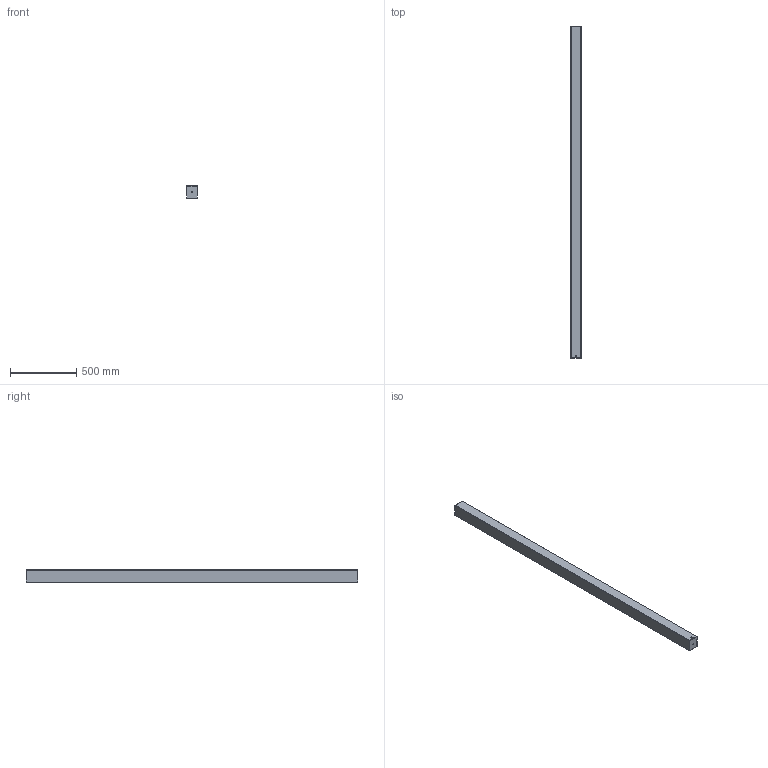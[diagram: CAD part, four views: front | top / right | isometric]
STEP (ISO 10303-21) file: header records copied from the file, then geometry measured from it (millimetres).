
FILE_DESCRIPTION(/* description */ (''),/* implementation_level */ '2;1');
FILE_NAME(/* name */ 'LB ZL-A 250.stp',/* time_stamp */ '2025-01-08T14:31:45+01:00',/* author */ ('d.streicher'),/* organization */ (''),/* preprocessor_version */ 'ST-DEVELOPER v20',/* originating_system */ 'Autodesk Inventor 2025',/* authorisation */ '');
FILE_SCHEMA (('CONFIG_CONTROL_DESIGN'));
Length unit declared in the file: millimetre
Products named in the file (1): ZL-A 250 weiß
Bounding box: 80 x 2500 x 96.5 mm (x, y, z)
Volume: 18790704.2 mm3; surface area: 890570.6 mm2
Topology: 1 solids, 1 shells, 66 faces, 136 edges, 80 vertices
Faces by surface type: plane 34, cylinder 24, sphere 4, bspline 4
Full cylindrical faces by diameter (mm): 8 x6, 9 x2
Entity records: 1930 total; most frequent: CARTESIAN_POINT 395, DIRECTION 306, ORIENTED_EDGE 264, EDGE_CURVE 132, AXIS2_PLACEMENT_3D 111, LINE 84, VECTOR 84, VERTEX_POINT 80
